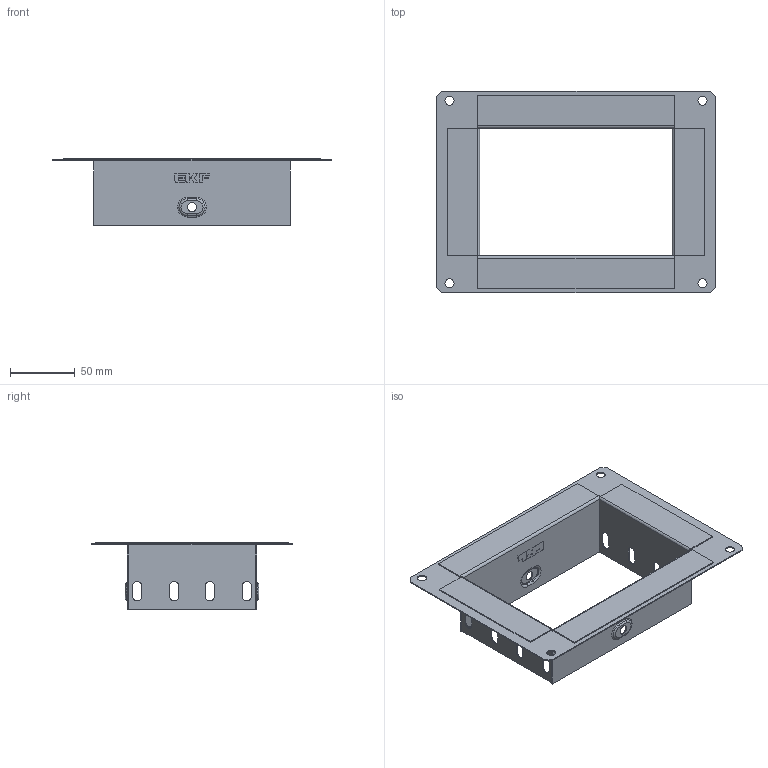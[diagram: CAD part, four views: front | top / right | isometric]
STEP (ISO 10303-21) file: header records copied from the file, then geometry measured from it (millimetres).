
FILE_DESCRIPTION (( 'STEP AP203' ), '1' );
FILE_NAME ('f100150_捘.STEP', '2020-01-23T12:27:50', ( '' ), ( '' ), 'SwSTEP 2.0', 'SolidWorks 2016', '' );
FILE_SCHEMA (( 'CONFIG_CONTROL_DESIGN' ));
Length unit declared in the file: millimetre
Products named in the file (9): f100150_1; f35150_2; f100100_3; f100150_捘
Assembly tree (5 placements, depth 2):
  f100150_捘
    f100150_1
    f35150_2  x2
    f100100_3  x2
  f100150_1
  f100100_3
  f35150_2
  f35150_2
Bounding box: 215 x 155 x 51.5 mm (x, y, z)
Volume: 43531.1 mm3; surface area: 111442.5 mm2
Topology: 5 solids, 5 shells, 326 faces, 852 edges, 552 vertices
Faces by surface type: plane 220, cylinder 72, bspline 18, torus 16
Entity records: 6612 total; most frequent: CARTESIAN_POINT 1418, ORIENTED_EDGE 912, DIRECTION 878, EDGE_CURVE 456, LINE 346, VECTOR 346, VERTEX_POINT 296, AXIS2_PLACEMENT_3D 266
